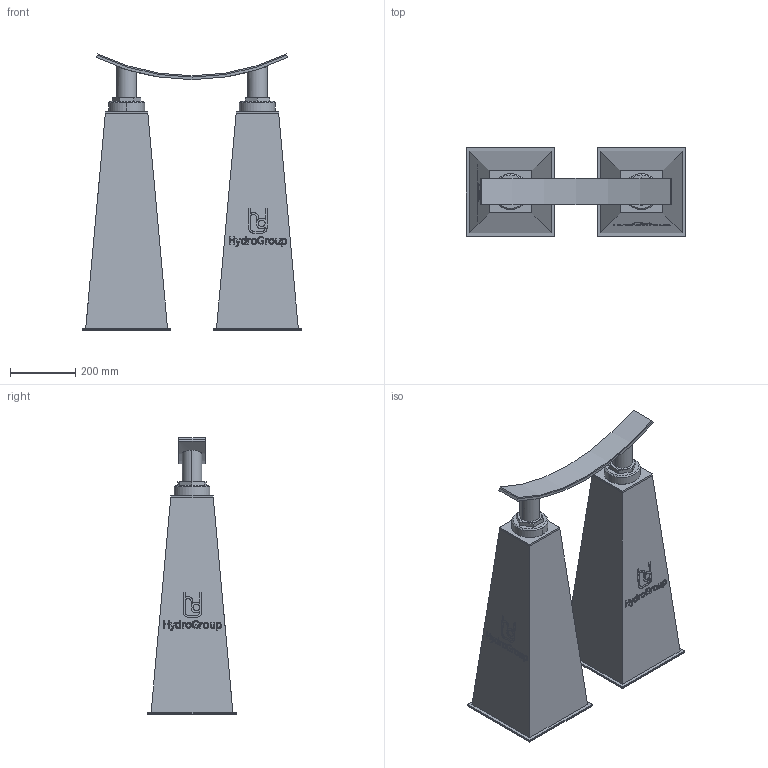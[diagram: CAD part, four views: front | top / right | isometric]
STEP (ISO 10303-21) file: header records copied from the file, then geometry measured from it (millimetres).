
FILE_DESCRIPTION(('STEP AP214'),'1');
FILE_NAME('RSRFE-I-DUO_DN1300.stp','2018-06-27T13:57:32',(' '),(' '),'Spatial InterOp 3D',' ',' ');
FILE_SCHEMA(('automotive_design'));
Length unit declared in the file: millimetre
Products named in the file (10): 1; 2; 3; 4; 5; 6; 7; 8; 9; 10
Bounding box: 670 x 270 x 844.43 mm (x, y, z)
Volume: 53066634.4 mm3; surface area: 1933439 mm2
Topology: 10 solids, 11 shells, 419 faces, 1042 edges, 684 vertices
Faces by surface type: plane 272, cylinder 69, extrusion 48, cone 30
Entity records: 17477 total; most frequent: CARTESIAN_POINT 4023, ORIENTED_EDGE 2084, DIRECTION 1880, EDGE_CURVE 1042, VECTOR 806, LINE 758, VERTEX_POINT 684, AXIS2_PLACEMENT_3D 537
